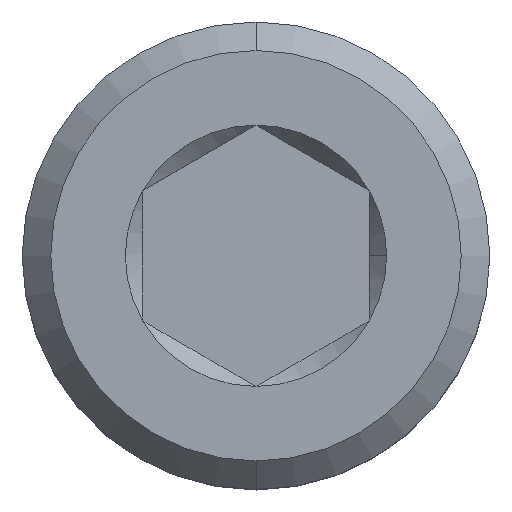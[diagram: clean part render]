
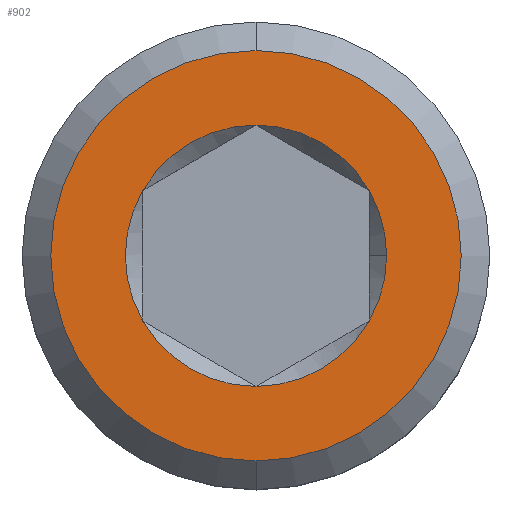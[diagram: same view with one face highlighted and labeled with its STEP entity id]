
A CAD part, top view. The second image highlights one B-rep face of the part: STEP entity #902.
In plain terms, the highlighted planar face has unit normal (0, 0, 1).
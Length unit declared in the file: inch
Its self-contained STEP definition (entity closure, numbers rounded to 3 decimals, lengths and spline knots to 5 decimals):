
#81 = DIRECTION ( 'NONE',  ( 0., 0., 1. ) ) ;
#100 = DIRECTION ( 'NONE',  ( 1., 0., 0. ) ) ;
#121 = DIRECTION ( 'NONE',  ( 0., 0., 1. ) ) ;
#136 = CARTESIAN_POINT ( 'NONE',  ( 0., 0., 0.319 ) ) ;
#147 = ORIENTED_EDGE ( 'NONE', *, *, #4198, .F. ) ;
#255 = AXIS2_PLACEMENT_3D ( 'NONE', #136, #121, #498 ) ;
#264 = FACE_BOUND ( 'NONE', #3947, .T. ) ;
#284 = DIRECTION ( 'NONE',  ( 1., 0., 0. ) ) ;
#334 = EDGE_CURVE ( 'NONE', #1769, #2477, #2372, .T. ) ;
#372 = ORIENTED_EDGE ( 'NONE', *, *, #4731, .F. ) ;
#381 = DIRECTION ( 'NONE',  ( 1., 0., 0. ) ) ;
#473 = CARTESIAN_POINT ( 'NONE',  ( 0., 0., 0.319 ) ) ;
#495 = EDGE_CURVE ( 'NONE', #2802, #4655, #1185, .T. ) ;
#498 = DIRECTION ( 'NONE',  ( 0., -1., 0. ) ) ;
#534 = CARTESIAN_POINT ( 'NONE',  ( 0., 0., 0.319 ) ) ;
#690 = VERTEX_POINT ( 'NONE', #1462 ) ;
#829 = EDGE_CURVE ( 'NONE', #690, #3539, #3399, .T. ) ;
#832 = CARTESIAN_POINT ( 'NONE',  ( -0.05469, -0.03157, 0.319 ) ) ;
#842 = DIRECTION ( 'NONE',  ( 0., 1., 0. ) ) ;
#902 = ADVANCED_FACE ( 'NONE', ( #264, #3746 ), #1186, .T. ) ;
#930 = EDGE_CURVE ( 'NONE', #3785, #1697, #1790, .T. ) ;
#1072 = EDGE_CURVE ( 'NONE', #1697, #3785, #4707, .T. ) ;
#1185 = CIRCLE ( 'NONE', #2629, 0.06315 ) ;
#1186 = PLANE ( 'NONE',  #255 ) ;
#1210 = AXIS2_PLACEMENT_3D ( 'NONE', #2696, #3802, #4135 ) ;
#1305 = CARTESIAN_POINT ( 'NONE',  ( 0., 0., 0.319 ) ) ;
#1311 = ORIENTED_EDGE ( 'NONE', *, *, #2488, .F. ) ;
#1392 = EDGE_LOOP ( 'NONE', ( #3505, #3963 ) ) ;
#1397 = CARTESIAN_POINT ( 'NONE',  ( 0., 0., 0.319 ) ) ;
#1448 = CARTESIAN_POINT ( 'NONE',  ( 0., 0.0992, 0.319 ) ) ;
#1462 = CARTESIAN_POINT ( 'NONE',  ( 0., -0.06315, 0.319 ) ) ;
#1472 = CARTESIAN_POINT ( 'NONE',  ( 0., -0.0992, 0.319 ) ) ;
#1508 = AXIS2_PLACEMENT_3D ( 'NONE', #1397, #3939, #284 ) ;
#1516 = CARTESIAN_POINT ( 'NONE',  ( 0., 0., 0.319 ) ) ;
#1575 = AXIS2_PLACEMENT_3D ( 'NONE', #534, #1602, #3076 ) ;
#1602 = DIRECTION ( 'NONE',  ( 0., 0., -1. ) ) ;
#1617 = DIRECTION ( 'NONE',  ( 0., 0., 1. ) ) ;
#1677 = DIRECTION ( 'NONE',  ( 1., 0., 0. ) ) ;
#1697 = VERTEX_POINT ( 'NONE', #1472 ) ;
#1730 = EDGE_CURVE ( 'NONE', #3539, #1769, #3574, .T. ) ;
#1769 = VERTEX_POINT ( 'NONE', #4047 ) ;
#1790 = CIRCLE ( 'NONE', #1575, 0.0992 ) ;
#1796 = CIRCLE ( 'NONE', #1508, 0.06315 ) ;
#1802 = CIRCLE ( 'NONE', #2503, 0.06315 ) ;
#1932 = DIRECTION ( 'NONE',  ( 1., 0., 0. ) ) ;
#2067 = ORIENTED_EDGE ( 'NONE', *, *, #334, .F. ) ;
#2129 = AXIS2_PLACEMENT_3D ( 'NONE', #4094, #1617, #4500 ) ;
#2234 = DIRECTION ( 'NONE',  ( 0., 0., 1. ) ) ;
#2256 = AXIS2_PLACEMENT_3D ( 'NONE', #1305, #4216, #1677 ) ;
#2265 = DIRECTION ( 'NONE',  ( 0., 0., -1. ) ) ;
#2272 = CARTESIAN_POINT ( 'NONE',  ( 0., 0., 0.319 ) ) ;
#2275 = CIRCLE ( 'NONE', #1210, 0.06315 ) ;
#2372 = CIRCLE ( 'NONE', #2256, 0.06315 ) ;
#2477 = VERTEX_POINT ( 'NONE', #3009 ) ;
#2488 = EDGE_CURVE ( 'NONE', #3151, #2802, #1802, .T. ) ;
#2503 = AXIS2_PLACEMENT_3D ( 'NONE', #2272, #81, #1932 ) ;
#2520 = DIRECTION ( 'NONE',  ( 0., 0., 1. ) ) ;
#2629 = AXIS2_PLACEMENT_3D ( 'NONE', #1516, #2234, #100 ) ;
#2696 = CARTESIAN_POINT ( 'NONE',  ( 0., 0., 0.319 ) ) ;
#2802 = VERTEX_POINT ( 'NONE', #4246 ) ;
#2867 = ORIENTED_EDGE ( 'NONE', *, *, #829, .F. ) ;
#3009 = CARTESIAN_POINT ( 'NONE',  ( 0.05469, 0.03157, 0.319 ) ) ;
#3076 = DIRECTION ( 'NONE',  ( 0., 1., 0. ) ) ;
#3151 = VERTEX_POINT ( 'NONE', #3758 ) ;
#3274 = ORIENTED_EDGE ( 'NONE', *, *, #1730, .F. ) ;
#3338 = ORIENTED_EDGE ( 'NONE', *, *, #495, .F. ) ;
#3399 = CIRCLE ( 'NONE', #2129, 0.06315 ) ;
#3505 = ORIENTED_EDGE ( 'NONE', *, *, #930, .F. ) ;
#3539 = VERTEX_POINT ( 'NONE', #3876 ) ;
#3574 = CIRCLE ( 'NONE', #4480, 0.06315 ) ;
#3679 = CARTESIAN_POINT ( 'NONE',  ( 0., 0., 0.319 ) ) ;
#3746 = FACE_OUTER_BOUND ( 'NONE', #1392, .T. ) ;
#3758 = CARTESIAN_POINT ( 'NONE',  ( 0., 0.06315, 0.319 ) ) ;
#3776 = AXIS2_PLACEMENT_3D ( 'NONE', #473, #2265, #842 ) ;
#3785 = VERTEX_POINT ( 'NONE', #1448 ) ;
#3802 = DIRECTION ( 'NONE',  ( 0., 0., 1. ) ) ;
#3876 = CARTESIAN_POINT ( 'NONE',  ( 0.05469, -0.03157, 0.319 ) ) ;
#3939 = DIRECTION ( 'NONE',  ( 0., 0., 1. ) ) ;
#3947 = EDGE_LOOP ( 'NONE', ( #2867, #372, #3338, #1311, #147, #2067, #3274 ) ) ;
#3963 = ORIENTED_EDGE ( 'NONE', *, *, #1072, .F. ) ;
#4047 = CARTESIAN_POINT ( 'NONE',  ( 0.06315, 0., 0.319 ) ) ;
#4094 = CARTESIAN_POINT ( 'NONE',  ( 0., 0., 0.319 ) ) ;
#4135 = DIRECTION ( 'NONE',  ( 1., 0., 0. ) ) ;
#4198 = EDGE_CURVE ( 'NONE', #2477, #3151, #1796, .T. ) ;
#4216 = DIRECTION ( 'NONE',  ( 0., 0., 1. ) ) ;
#4246 = CARTESIAN_POINT ( 'NONE',  ( -0.05469, 0.03157, 0.319 ) ) ;
#4480 = AXIS2_PLACEMENT_3D ( 'NONE', #3679, #2520, #381 ) ;
#4500 = DIRECTION ( 'NONE',  ( 1., 0., 0. ) ) ;
#4655 = VERTEX_POINT ( 'NONE', #832 ) ;
#4707 = CIRCLE ( 'NONE', #3776, 0.0992 ) ;
#4731 = EDGE_CURVE ( 'NONE', #4655, #690, #2275, .T. ) ;
